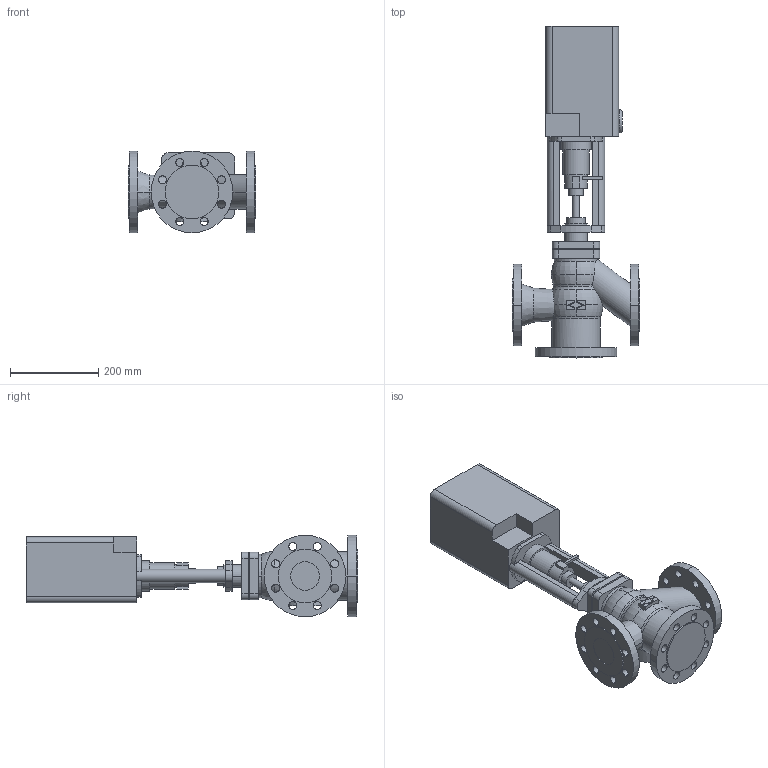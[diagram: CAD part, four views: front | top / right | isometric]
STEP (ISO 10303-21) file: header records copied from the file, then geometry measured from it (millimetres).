
FILE_DESCRIPTION(('OneSpaceDesigner STEP Export'),'2;1');
FILE_NAME('c000002391.stp','2006-09-19T11:57:51',(''),(''),'OneSpace Designer STEP processor for AP214 (Solid Model)','OneSpace Designer 13.20A 18-Aug-2005 (C) CoCreate Software GmbH','');
FILE_SCHEMA(('AUTOMOTIVE_DESIGN { 1 0 10303 214 1 1 1 1 }'));
Length unit declared in the file: millimetre
Products named in the file (2): 1; 2
Bounding box: 290 x 753.5 x 185 mm (x, y, z)
Volume: 11749906.6 mm3; surface area: 631640.4 mm2
Topology: 2 solids, 2 shells, 235 faces, 615 edges, 408 vertices
Faces by surface type: cylinder 118, plane 90, torus 23, cone 4
Entity records: 6844 total; most frequent: CARTESIAN_POINT 1419, ORIENTED_EDGE 1230, DIRECTION 983, EDGE_CURVE 615, VERTEX_POINT 408, AXIS2_PLACEMENT_3D 352, EDGE_LOOP 307, VECTOR 279
